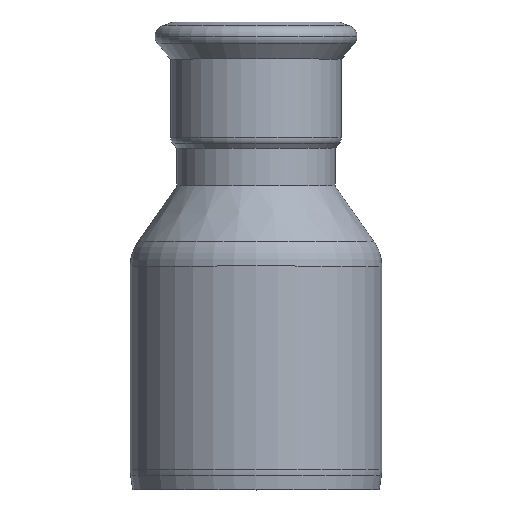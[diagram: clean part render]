
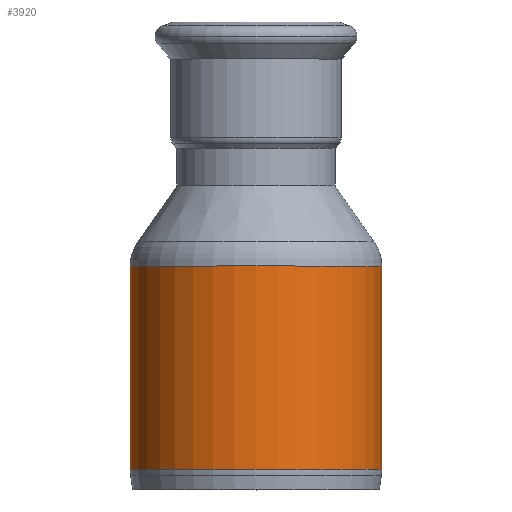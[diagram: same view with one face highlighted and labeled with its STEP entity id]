
A CAD part, top view. The second image highlights one B-rep face of the part: STEP entity #3920.
In plain terms, the highlighted cylindrical face has radius 33.35 mm (diameter 66.7 mm), a partial arc.
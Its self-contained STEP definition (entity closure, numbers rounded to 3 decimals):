
#2150=CARTESIAN_POINT('',(-10.749,-61.187,
0.));
#2160=VERTEX_POINT('',#2150);
#2210=CARTESIAN_POINT('',(22.601,-61.187,0.));
#2220=DIRECTION('',(0.,1.,0.));
#2230=DIRECTION('',(-1.,0.,0.));
#2240=AXIS2_PLACEMENT_3D('',#2210,#2220,#2230);
#2250=CIRCLE('',#2240,33.35);
#2260=CARTESIAN_POINT('',(55.951,-61.187,
0.));
#2270=VERTEX_POINT('',#2260);
#2280=EDGE_CURVE('',#2160,#2270,#2250,.T.);
#3460=CARTESIAN_POINT('',(-10.749,-7.253,
0.));
#3470=VERTEX_POINT('',#3460);
#3500=CARTESIAN_POINT('',(22.601,-7.253,0.));
#3510=DIRECTION('',(0.,1.,0.));
#3520=DIRECTION('',(1.,0.,0.));
#3530=AXIS2_PLACEMENT_3D('',#3500,#3510,#3520);
#3540=CIRCLE('',#3530,33.35);
#3550=CARTESIAN_POINT('',(55.951,-7.253,
0.));
#3560=VERTEX_POINT('',#3550);
#3700=CARTESIAN_POINT('',(22.601,-13.453,0.));
#3710=DIRECTION('',(0.,1.,0.));
#3720=DIRECTION('',(1.,-0.,0.));
#3730=AXIS2_PLACEMENT_3D('',#3700,#3710,#3720);
#3740=CYLINDRICAL_SURFACE('',#3730,33.35);
#3750=CARTESIAN_POINT('',(-10.749,-13.453,0.));
#3760=DIRECTION('',(0.,1.,0.));
#3770=VECTOR('',#3760,1.);
#3780=LINE('',#3750,#3770);
#3790=EDGE_CURVE('',#2160,#3470,#3780,.T.);
#3800=ORIENTED_EDGE('',*,*,#3790,.F.);
#3810=EDGE_CURVE('',#3470,#3560,#3540,.T.);
#3820=ORIENTED_EDGE('',*,*,#3810,.F.);
#3830=CARTESIAN_POINT('',(55.951,-13.453,
0.));
#3840=DIRECTION('',(0.,1.,0.));
#3850=VECTOR('',#3840,1.);
#3860=LINE('',#3830,#3850);
#3870=EDGE_CURVE('',#2270,#3560,#3860,.T.);
#3880=ORIENTED_EDGE('',*,*,#3870,.T.);
#3890=ORIENTED_EDGE('',*,*,#2280,.T.);
#3900=EDGE_LOOP('',(#3890,#3880,#3820,#3800));
#3910=FACE_OUTER_BOUND('',#3900,.T.);
#3920=ADVANCED_FACE('',(#3910),#3740,.T.);
